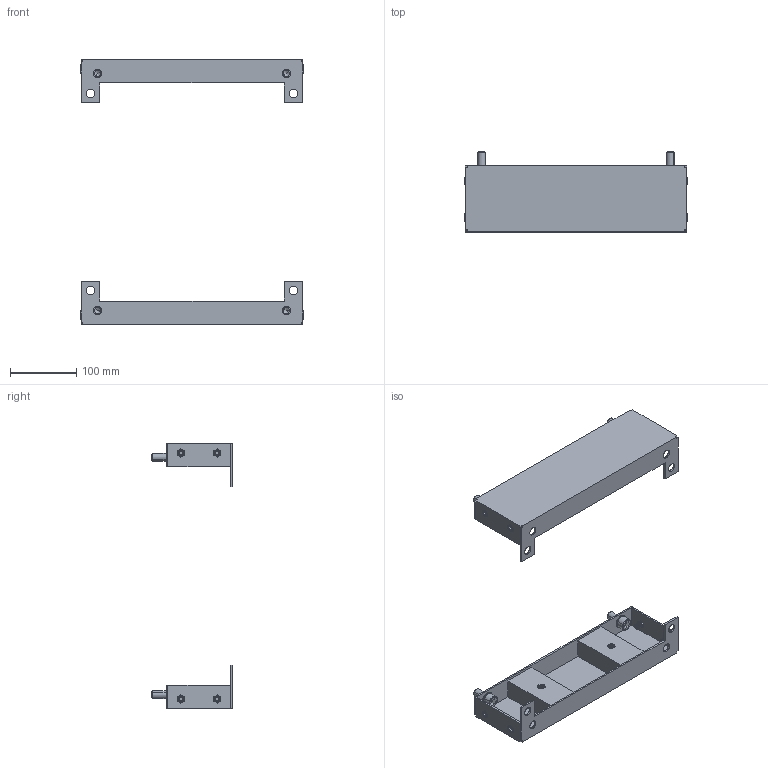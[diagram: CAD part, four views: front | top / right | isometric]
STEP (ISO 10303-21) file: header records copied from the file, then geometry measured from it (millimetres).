
FILE_DESCRIPTION (( 'STEP AP203' ), '1' );
FILE_NAME ('R6PLB40 H=400.STEP', '2025-05-16T11:36:18', ( '' ), ( '' ), 'SwSTEP 2.0', 'SolidWorks 2022', '' );
FILE_SCHEMA (( 'CONFIG_CONTROL_DESIGN' ));
Length unit declared in the file: millimetre
Products named in the file (8): M6 MGS-MPO-0635_straight; RB.3309.00.01.0 simple_-02; RB.3309.00.00.0 СБ simple_-02; M6 MGS-MPO-0635_thread; M12x25 DIN 912 HX cl.8,8 Zinc_stright; RB.3309.00.02.0 simple; R6PLB40 H=400; 12 DIN 6798 A Zinc
Assembly tree (19 placements, depth 3):
  R6PLB40 H=400
    RB.3309.00.00.0 СБ simple_-02  x2
      RB.3309.00.01.0 simple_-02
      M6 MGS-MPO-0635_thread
      RB.3309.00.02.0 simple
      M6 MGS-MPO-0635_straight
    12 DIN 6798 A Zinc  x4
    M12x25 DIN 912 HX cl.8,8 Zinc_stright  x4
Bounding box: 336.7 x 121.5 x 400 mm (x, y, z)
Volume: 435300.7 mm3; surface area: 360525.4 mm2
Topology: 26 solids, 26 shells, 1568 faces, 4128 edges, 2388 vertices
Faces by surface type: plane 640, cylinder 544, bspline 168, sphere 144, cone 40, torus 32
Entity records: 15002 total; most frequent: CARTESIAN_POINT 5755, ORIENTED_EDGE 1768, DIRECTION 1539, EDGE_CURVE 884, VERTEX_POINT 558, VECTOR 533, LINE 533, AXIS2_PLACEMENT_3D 503
